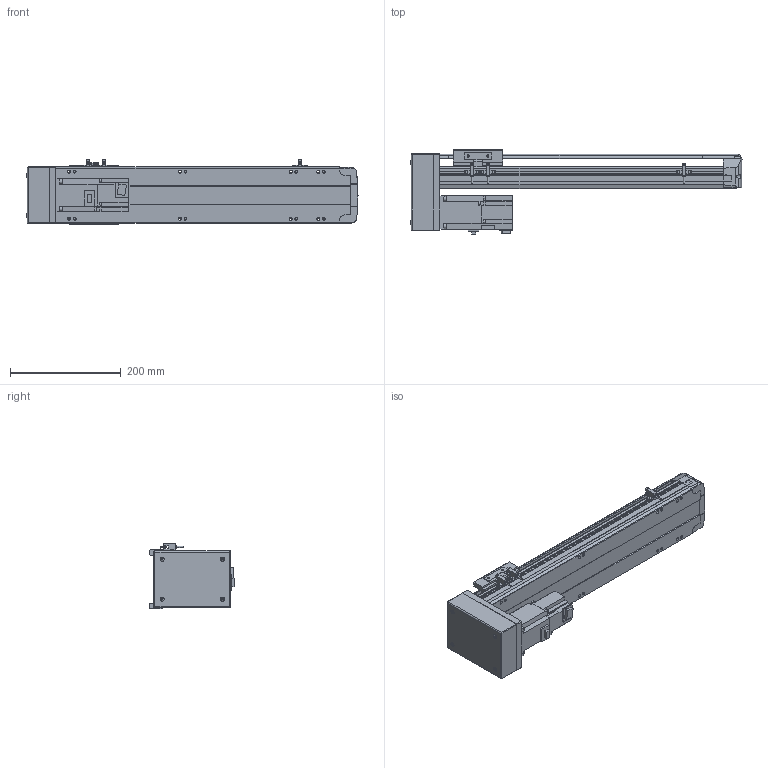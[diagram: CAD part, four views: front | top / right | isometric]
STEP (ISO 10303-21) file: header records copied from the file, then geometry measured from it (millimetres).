
FILE_DESCRIPTION(/* description */ ('STEP AP214'),/* implementation_level */ '2;1');
FILE_NAME(/* name */ 'PSS120-L10-S350-BM-T40-C1-N(0)',/* time_stamp */ '2022-06-06T02:26:11+02:00',/* author */ ('License CC BY-ND 4.0'),/* organization */ ('CADENAS'),/* preprocessor_version */ 'ST-DEVELOPER v18.102',/* originating_system */ 'PARTsolutions',/* authorisation */ ' ');
FILE_SCHEMA (('AUTOMOTIVE_DESIGN {1 0 10303 214 3 1 1}'));
Length unit declared in the file: millimetre
Products named in the file (8): PSS120-L10-S350-BM-T40-C1-N(0); PSS120-S350-BM-N_S; T40-p1; PSS120BM-N_h; PSS120-N_sensor; PSS120-BM-C1-N_sl; PSS120-N_Q; PSS120-S350-BM-C1-N_body
Assembly tree (9 placements, depth 2):
  PSS120-L10-S350-BM-T40-C1-N(0)
    PSS120-S350-BM-N_S
    T40-p1
    PSS120BM-N_h
    PSS120-N_sensor  x3
    PSS120-BM-C1-N_sl
    PSS120-N_Q
    PSS120-S350-BM-C1-N_body
Bounding box: 599.35 x 151.8 x 117.7 mm (x, y, z)
Volume: 2906022.7 mm3; surface area: 469142.9 mm2
Topology: 9 solids, 9 shells, 809 faces, 2181 edges, 1448 vertices
Faces by surface type: plane 568, cylinder 221, cone 16, sphere 4
Full cylindrical faces by diameter (mm): 2.8 x3, 4 x4, 4.134 x12, 4.4 x2, 4.5 x4, 4.6 x3, 5 x6, 5.5 x15, 7 x2, 7.4 x4, 8 x4, 8.5 x12, 14 x1, 28 x1, 32 x2, 50 x1
Entity records: 21857 total; most frequent: CARTESIAN_POINT 3964, DIRECTION 3631, ORIENTED_EDGE 3574, EDGE_CURVE 1787, LINE 1285, VECTOR 1285, VERTEX_POINT 1238, AXIS2_PLACEMENT_3D 1173
